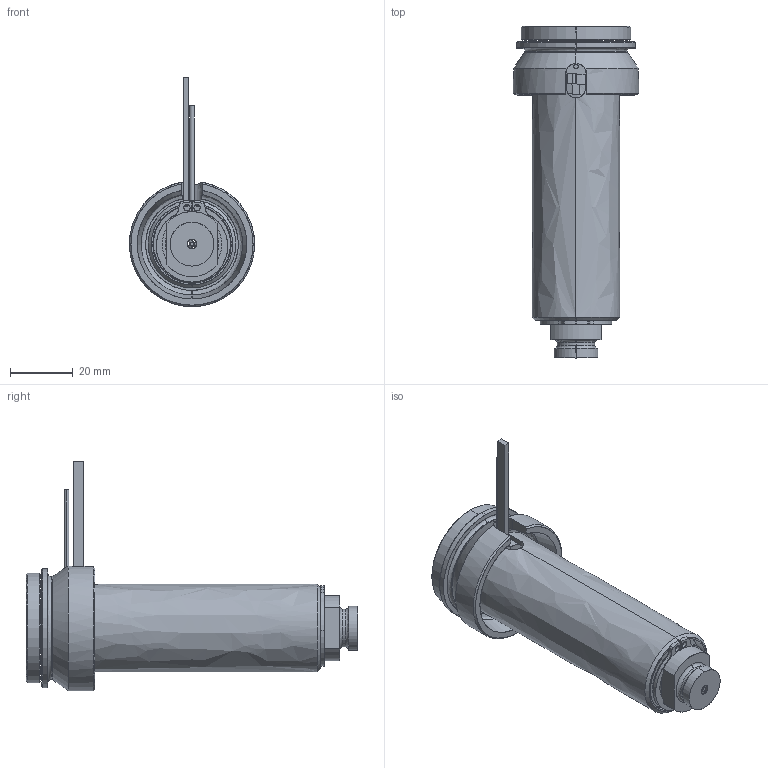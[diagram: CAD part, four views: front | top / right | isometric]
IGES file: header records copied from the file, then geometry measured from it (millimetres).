
Start section: SolidWorks IGES file using analytic representation for surfaces
Global section: file name: C:\Documents and Settings\ws-20\Desktop\TEM\UGEP4102-S-A-0 [Øf-1.31 P-0 ØC-10].IGS; native system: SolidWorks 2012; preprocessor: SolidWorks 2012; author: ws-20; date: 120426.085819; units: millimetre
Bounding box: 40 x 106 x 73.3 mm (x, y, z)
Surface area: 33199.5 mm2 (no closed solid volume)
Topology: 0 solids, 0 shells, 116 faces, 1992 edges, 1992 vertices
Faces by surface type: revolution 70, bspline 46
